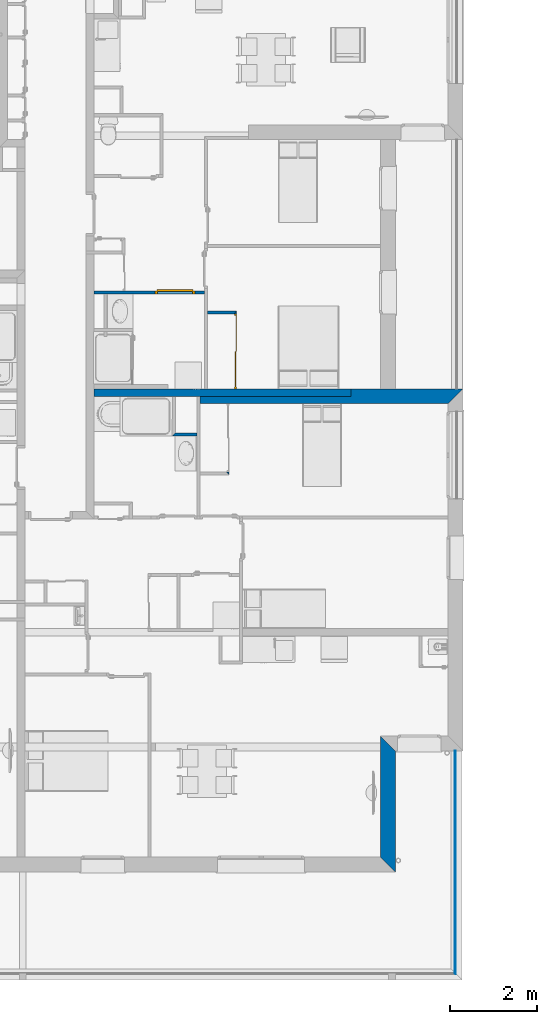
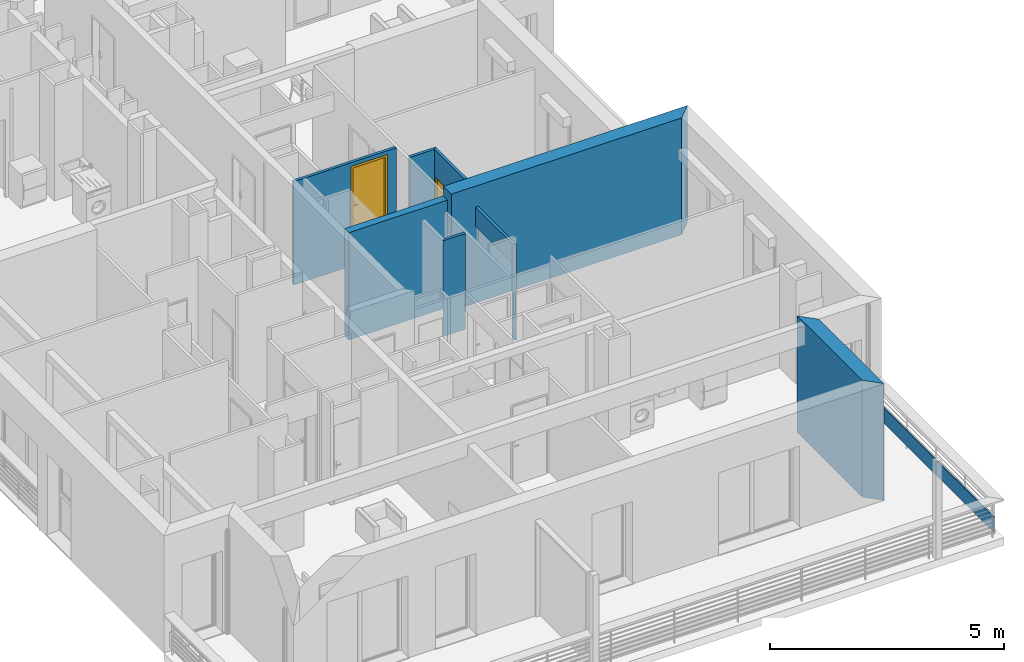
# One storey, part 15 of 165: 9 walls, 2 doors, 3 openings.
"""IFC2X3 building model written with IfcOpenShell, lengths in millimetres."""

import ifcopenshell
import ifcopenshell.guid

model = None  # the IFC model being written
_history = None  # IfcOwnerHistory: only IFC2X3 demands one
_inside = {}  # id of a spatial element -> (the spatial element, [elements in it])
_under = {}  # id of a project, library or spatial element -> (it, [spatial elements below it])
_declared = {}  # id of a project -> (the project, [libraries it declares])
_typed = {}  # id of a type object -> (the type object, [elements of that type])
_made_of = {}  # id of a material, layer set ... -> (it, [elements and type objects made of it])


def new_model(schema):
    """Start an empty IFC model of exactly this schema.

    Asked for "IFC4X3", IfcOpenShell would pick the latest addendum, in which some entities
    have other attributes; the version numbers below select the first issue.
    IFC2X3 requires an IfcOwnerHistory on every rooted entity: one is made here for all.
    """
    global model, _history
    if schema == "IFC4X3":
        model = ifcopenshell.file(schema_version=(4, 3, 0, 0))
    else:
        model = ifcopenshell.file(schema=schema)
    _inside.clear()
    _under.clear()
    _declared.clear()
    _typed.clear()
    _made_of.clear()
    _history = None
    if model.schema == "IFC2X3":
        org = make("IfcOrganization", Name="unknown")
        user = make(
            "IfcPersonAndOrganization",
            ThePerson=make("IfcPerson", FamilyName="unknown"),
            TheOrganization=org,
        )
        app = make(
            "IfcApplication",
            ApplicationDeveloper=org,
            Version="unknown",
            ApplicationFullName="unknown",
            ApplicationIdentifier="unknown",
        )
        _history = make(
            "IfcOwnerHistory",
            OwningUser=user,
            OwningApplication=app,
            ChangeAction="ADDED",
            CreationDate=0,
        )
    return model


def make(cls, **values):
    """One entity of the class cls with the attributes given. An attribute that is None is left unset."""
    return model.create_entity(
        cls, **{name: value for name, value in values.items() if value is not None}
    )


def entity(cls, *values):
    """Any entity or typed value of the class cls, its attributes in the order of the schema. None: left unset."""
    e = model.create_entity(cls)
    for i, value in enumerate(values):
        if value is not None:
            e[i] = value
    return e


def rooted(cls, **values):
    """An entity with a GlobalId (a new one), such as an element, a storey or a relation."""
    return make(cls, GlobalId=ifcopenshell.guid.new(), OwnerHistory=_history, **values)


def si_unit(unit_type, name, prefix=None):
    """IfcSIUnit, for example si_unit("LENGTHUNIT", "METRE", prefix="MILLI")."""
    return make("IfcSIUnit", UnitType=unit_type, Prefix=prefix, Name=name)


def converted_unit(unit_type, name, factor, base, dimensions=None, offset=None):
    """IfcConversionBasedUnit, such as the inch: factor (a typed value) times the base unit."""
    return make(
        "IfcConversionBasedUnit"
        if offset is None
        else "IfcConversionBasedUnitWithOffset",
        ConversionOffset=offset,
        Dimensions=None
        if dimensions is None
        else entity("IfcDimensionalExponents", *dimensions),
        UnitType=unit_type,
        Name=name,
        ConversionFactor=make(
            "IfcMeasureWithUnit", ValueComponent=factor, UnitComponent=base
        ),
    )


def derived_unit(unit_type, elements):
    """IfcDerivedUnit: a product of units, each with its exponent."""
    return make(
        "IfcDerivedUnit",
        Elements=[
            make("IfcDerivedUnitElement", Unit=unit, Exponent=power)
            for unit, power in elements
        ],
        UnitType=unit_type,
    )


def money_unit(currency):
    """IfcMonetaryUnit."""
    return make("IfcMonetaryUnit", Currency=currency)


def assignment(units):
    """IfcUnitAssignment: the units of a project."""
    return None if units is None else make("IfcUnitAssignment", Units=units)


def point(xyz):
    """IfcCartesianPoint."""
    return None if xyz is None else make("IfcCartesianPoint", Coordinates=xyz)


def direction(xyz):
    """IfcDirection."""
    return None if xyz is None else make("IfcDirection", DirectionRatios=xyz)


def frame(location, z_axis=None, x_axis=None):
    """IfcAxis2Placement3D, a coordinate frame: its origin and axes. An axis left out is left unset."""
    return make(
        "IfcAxis2Placement3D",
        Location=point(location),
        Axis=direction(z_axis),
        RefDirection=direction(x_axis),
    )


def frame_2d(location, x_axis=None):
    """IfcAxis2Placement2D, a coordinate frame in the plane: its origin and x axis."""
    return make(
        "IfcAxis2Placement2D", Location=point(location), RefDirection=direction(x_axis)
    )


def origin_with_axes():
    """The frame at (0, 0, 0) with the z axis (0, 0, 1) and the x axis (1, 0, 0) written out."""
    return frame((0.0, 0.0, 0.0), z_axis=(0.0, 0.0, 1.0), x_axis=(1.0, 0.0, 0.0))


def origin_2d_with_axis():
    """The frame at (0, 0) in the plane with the x axis (1, 0) written out."""
    return frame_2d((0.0, 0.0), x_axis=(1.0, 0.0))


def place(relative_to, where):
    """IfcLocalPlacement: puts the frame where relative to a parent placement (None: the world)."""
    return make(
        "IfcLocalPlacement", PlacementRelTo=relative_to, RelativePlacement=where
    )


def context(
    kind, dimensions, precision=None, world=None, true_north=None, identifier=None
):
    """IfcGeometricRepresentationContext, for example the 3D "Model" context."""
    return make(
        "IfcGeometricRepresentationContext",
        ContextIdentifier=identifier,
        ContextType=kind,
        CoordinateSpaceDimension=dimensions,
        Precision=precision,
        WorldCoordinateSystem=world,
        TrueNorth=true_north,
    )


def subcontext(parent, identifier, kind, view, scale=None):
    """IfcGeometricRepresentationSubContext, for example "Body" below "Model"."""
    return make(
        "IfcGeometricRepresentationSubContext",
        ContextIdentifier=identifier,
        ContextType=kind,
        ParentContext=parent,
        TargetScale=scale,
        TargetView=view,
    )


def project(units=None, contexts=None):
    """IfcProject with its units and contexts."""
    return rooted(
        "IfcProject",
        Name="project",
        RepresentationContexts=contexts,
        UnitsInContext=assignment(units),
    )


def spatial(cls, under=None, at=None, **own):
    """A site, building, storey or space (cls), placed at a placement, below another one or the project."""
    s = rooted(cls, ObjectPlacement=at, **own)
    if under is not None:
        _under.setdefault(under.id(), (under, []))[1].append(s)
    return s


def polyline(points):
    """IfcPolyline through the points."""
    return make("IfcPolyline", Points=[point(p) for p in points])


def profile(cls, at=None, kind="AREA", **sizes):
    """A parametric profile (cls). Its sizes go by their IFC names, for example OverallWidth=200.0."""
    return make(cls, ProfileType=kind, Position=at, **sizes)


def rectangle(**sizes):
    """IfcRectangleProfileDef."""
    return profile("IfcRectangleProfileDef", **sizes)


def outline(outer, holes=None, kind="AREA"):
    """IfcArbitraryClosedProfileDef: a profile drawn as a closed curve; with holes, ...WithVoids."""
    if holes is None:
        return make("IfcArbitraryClosedProfileDef", ProfileType=kind, OuterCurve=outer)
    return make(
        "IfcArbitraryProfileDefWithVoids",
        ProfileType=kind,
        OuterCurve=outer,
        InnerCurves=holes,
    )


def extrude(swept, where, along, depth):
    """IfcExtrudedAreaSolid: the profile swept, set in the frame where, extruded along a direction by depth."""
    return make(
        "IfcExtrudedAreaSolid",
        SweptArea=swept,
        Position=where,
        ExtrudedDirection=direction(along),
        Depth=depth,
    )


def faces_of(points, faces, orient=None, outer=None):
    """IfcFace entities. A face is a list of loops; a loop is a list of indices into points, from 0.

    orient and outer hold one flag for each loop. By default every Orientation is true, the
    first loop of a face is its IfcFaceOuterBound and the others are IfcFaceBound.
    """
    made = []
    for i, loops in enumerate(faces):
        bounds = []
        for j, loop in enumerate(loops):
            is_outer = j == 0 if outer is None else outer[i][j]
            bounds.append(
                make(
                    "IfcFaceOuterBound" if is_outer else "IfcFaceBound",
                    Bound=make("IfcPolyLoop", Polygon=[points[k] for k in loop]),
                    Orientation=True if orient is None else orient[i][j],
                )
            )
        made.append(make("IfcFace", Bounds=bounds))
    return made


def open_shell(faces, orient=None, outer=None):
    """The faces of one IfcOpenShell. surface_model builds it on its shared points."""
    return ("IfcOpenShell", faces, orient, outer)


def faceted_brep(points, faces, orient=None, outer=None, voids=None):
    """IfcFacetedBrep: a solid bounded by flat faces; with voids (closed shells), ...WithVoids."""
    shared = [point(p) for p in points]
    hull = make("IfcClosedShell", CfsFaces=faces_of(shared, faces, orient, outer))
    if voids is None:
        return make("IfcFacetedBrep", Outer=hull)
    return make(
        "IfcFacetedBrepWithVoids",
        Outer=hull,
        Voids=[
            make(cls, CfsFaces=faces_of(shared, fs, o, b)) for cls, fs, o, b in voids
        ],
    )


def surface_model(cls, points, shells):
    """IfcFaceBasedSurfaceModel or IfcShellBasedSurfaceModel (cls): surfaces that need not close."""
    shared = [point(p) for p in points]
    made = [make(c, CfsFaces=faces_of(shared, fs, o, b)) for c, fs, o, b in shells]
    if cls == "IfcFaceBasedSurfaceModel":
        return make(cls, FbsmFaces=made)
    return make(cls, SbsmBoundary=made)


def shape(context_of_items, identifier, shape_type, items):
    """IfcShapeRepresentation: the items that make up one representation, for example the "Body"."""
    return make(
        "IfcShapeRepresentation",
        ContextOfItems=context_of_items,
        RepresentationIdentifier=identifier,
        RepresentationType=shape_type,
        Items=items,
    )


def source(mapping_origin, context_of_items, identifier, shape_type, items):
    """IfcRepresentationMap: a shape defined once, which mapped items show again and again."""
    return make(
        "IfcRepresentationMap",
        MappingOrigin=mapping_origin,
        MappedRepresentation=shape(context_of_items, identifier, shape_type, items),
    )


def transform(
    local_origin,
    x_axis=None,
    y_axis=None,
    z_axis=None,
    scale=None,
    scale2=None,
    scale3=None,
    uniform=True,
):
    """IfcCartesianTransformationOperator3D, or its non-uniform kind. x_axis, y_axis, z_axis: its Axis1, 2, 3."""
    if uniform:
        return make(
            "IfcCartesianTransformationOperator3D",
            Axis1=direction(x_axis),
            Axis2=direction(y_axis),
            LocalOrigin=point(local_origin),
            Scale=scale,
            Axis3=direction(z_axis),
        )
    return make(
        "IfcCartesianTransformationOperator3DnonUniform",
        Axis1=direction(x_axis),
        Axis2=direction(y_axis),
        LocalOrigin=point(local_origin),
        Scale=scale,
        Axis3=direction(z_axis),
        Scale2=scale2,
        Scale3=scale3,
    )


def mapped(mapping_source, mapping_target):
    """IfcMappedItem: shows the shape of a source again, moved by a transform."""
    return make(
        "IfcMappedItem", MappingSource=mapping_source, MappingTarget=mapping_target
    )


def material(Name=None, Category=None):
    """IfcMaterial."""
    return make("IfcMaterial", Name=Name, Category=Category)


def layer(
    of_material, thickness, ventilated=None, Name=None, Category=None, Priority=None
):
    """IfcMaterialLayer: one layer of a wall or slab, of a material (None: an air gap)."""
    return make(
        "IfcMaterialLayer",
        Material=of_material,
        LayerThickness=thickness,
        IsVentilated=ventilated,
        Name=Name,
        Category=Category,
        Priority=Priority,
    )


def layer_set(layers, Name=None):
    """IfcMaterialLayerSet."""
    return make("IfcMaterialLayerSet", MaterialLayers=layers, LayerSetName=Name)


def layer_usage(for_layer_set, set_direction, sense, offset, extent=None):
    """IfcMaterialLayerSetUsage: how a layer set lies in its element."""
    return make(
        "IfcMaterialLayerSetUsage",
        ForLayerSet=for_layer_set,
        LayerSetDirection=set_direction,
        DirectionSense=sense,
        OffsetFromReferenceLine=offset,
        ReferenceExtent=extent,
    )


def made_of(thing, what):
    """Note that an element or type object is made of a material, layer set ...; save() writes the relation."""
    if what is not None:
        _made_of.setdefault(what.id(), (what, []))[1].append(thing)
    return thing


def type_object(cls, material=None, **own):
    """A type object (cls), such as IfcWallType, which elements share."""
    return made_of(rooted(cls, **own), material)


def element(
    cls,
    number,
    at=None,
    inside=None,
    cuts=None,
    type_object=None,
    material=None,
    context=None,
    identifier="Body",
    shape_type=None,
    held_by="IfcProductDefinitionShape",
    body=None,
    shapes=None,
    **own,
):
    """One element of the class cls, such as IfcWall. Its Tag is "e" and its number.

    at: its placement. inside: the storey or other place that contains it. cuts: it is an
    opening in that element (IfcRelVoidsElement). A single representation is given by context,
    identifier, shape_type and body (its items); several are given by shapes. held_by: the class
    of the entity that holds the representations. save() writes the other relations.
    """
    e = rooted(cls, Tag="e%d" % number, ObjectPlacement=at, **own)
    if body is not None:
        shapes = [shape(context, identifier, shape_type, body)]
    if shapes is not None:
        e.Representation = make(held_by, Representations=shapes)
    if inside is not None:
        _inside.setdefault(inside.id(), (inside, []))[1].append(e)
    if cuts is not None:
        rooted(
            "IfcRelVoidsElement", RelatingBuildingElement=cuts, RelatedOpeningElement=e
        )
    if type_object is not None:
        _typed.setdefault(type_object.id(), (type_object, []))[1].append(e)
    return made_of(e, material)


def fill(opening, filler):
    """IfcRelFillsElement: the door or window that sits in an opening."""
    return rooted(
        "IfcRelFillsElement",
        RelatingOpeningElement=opening,
        RelatedBuildingElement=filler,
    )


def aggregate(whole, parts):
    """IfcRelAggregates: a whole, such as a stair, and the parts it consists of."""
    return rooted("IfcRelAggregates", RelatingObject=whole, RelatedObjects=parts)


def save(model, path):
    """Write the relations noted so far, then the file.

    IfcRelAggregates (storeys below a building ...), IfcRelContainedInSpatialStructure (elements
    in a storey), IfcRelDefinesByType, IfcRelAssociatesMaterial and IfcRelDeclares: one each for
    every whole, place, type object, material and project.
    """
    for whole, parts in _under.values():
        aggregate(whole, parts)
    for where, things in _inside.values():
        rooted(
            "IfcRelContainedInSpatialStructure",
            RelatedElements=things,
            RelatingStructure=where,
        )
    for kind, things in _typed.values():
        rooted("IfcRelDefinesByType", RelatedObjects=things, RelatingType=kind)
    for what, things in _made_of.values():
        rooted("IfcRelAssociatesMaterial", RelatedObjects=things, RelatingMaterial=what)
    for by, libraries in _declared.values():
        rooted("IfcRelDeclares", RelatingContext=by, RelatedDefinitions=libraries)
    model.write(path)


model = new_model("IFC2X3")

# Units and contexts
model_context = context("Model", 3, precision=0.01, world=origin_with_axes(), true_north=direction((0.0, 1.0)))
body_context = subcontext(model_context, "Body", "Model", "MODEL_VIEW")
ifc_project = project(units=[si_unit("LENGTHUNIT", "METRE", prefix="MILLI"), si_unit("AREAUNIT", "SQUARE_METRE"), si_unit("VOLUMEUNIT", "CUBIC_METRE"), converted_unit("PLANEANGLEUNIT", "DEGREE", entity("IfcPlaneAngleMeasure", 0.0174532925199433), si_unit("PLANEANGLEUNIT", "RADIAN"), dimensions=[0, 0, 0, 0, 0, 0, 0]), money_unit("USD"), converted_unit("TIMEUNIT", "Year", entity("IfcTimeMeasure", 31557600.0), si_unit("TIMEUNIT", "SECOND"), dimensions=[0, 0, 1, 0, 0, 0, 0]), si_unit("MASSUNIT", "GRAM", prefix="KILO"), si_unit("THERMODYNAMICTEMPERATUREUNIT", "DEGREE_CELSIUS"), si_unit("LUMINOUSINTENSITYUNIT", "LUMEN"), si_unit("ENERGYUNIT", "JOULE", prefix="MEGA"), derived_unit("THERMALCONDUCTANCEUNIT", [(si_unit("POWERUNIT", "WATT"), 1), (si_unit("LENGTHUNIT", "METRE"), -1), (si_unit("THERMODYNAMICTEMPERATUREUNIT", "KELVIN"), -1)]), derived_unit("SPECIFICHEATCAPACITYUNIT", [(si_unit("ENERGYUNIT", "JOULE"), 1), (si_unit("MASSUNIT", "GRAM", prefix="KILO"), -1), (si_unit("THERMODYNAMICTEMPERATUREUNIT", "KELVIN"), -1)]), derived_unit("MASSDENSITYUNIT", [(si_unit("MASSUNIT", "GRAM", prefix="KILO"), 1), (si_unit("VOLUMEUNIT", "CUBIC_METRE"), -1)])], contexts=[model_context])

# Site, building, storey
site_placement = place(None, origin_with_axes())
site = spatial("IfcSite", under=ifc_project, at=site_placement, Name="Site", CompositionType="ELEMENT")
building_placement = place(site_placement, origin_with_axes())
building = spatial("IfcBuilding", under=site, at=building_placement, Name="Bâtiment", CompositionType="ELEMENT")
storey_placement = place(building_placement, frame((0.0, 0.0, 8500.0), z_axis=(0.0, 0.0, 1.0), x_axis=(1.0, 0.0, 0.0)))
storey = spatial("IfcBuildingStorey", under=building, at=storey_placement, Name="Etage 2", CompositionType="ELEMENT", Elevation=8500.0)

# Wall
ifc_material_1 = material(Name="Parpaing 314940890")
ifc_layer_1 = layer(ifc_material_1, 180.0, ventilated="UNKNOWN")
ifc_layer_set_1 = layer_set([ifc_layer_1], Name="Beton  18 0018356637")
ifc_layer_usage_1 = layer_usage(ifc_layer_set_1, "AXIS2", "NEGATIVE", 0.0)
wall_type_1 = type_object("IfcWallType", Name="Beton  18 0018356637 180", PredefinedType="NOTDEFINED")
wall_1_placement = place(storey_placement, frame((2225712.31835196, -646738.4413036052, 0.0), z_axis=(0.0, 0.0, 1.0), x_axis=(1.0, -3.183654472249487e-10, 0.0)))
element("IfcWallStandardCase", 1, at=wall_1_placement, inside=storey, type_object=wall_type_1, material=ifc_layer_usage_1, Name="Mur-142", context=body_context, shape_type="SweptSolid", body=[
    extrude(outline(polyline([(180.0000048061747, -180.000000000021), (6081.914995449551, -180.0000000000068), (6081.914995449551, 0.0), (180.0000047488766, 0.0), (180.0000048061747, -180.000000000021)])), origin_with_axes(), (0.0, 0.0, 1.0), 2800.0),
])

# Wall, opening, door
ifc_material_2 = material(Name="Hachure solide 268963992")
ifc_layer_2 = layer(ifc_material_2, 70.0, ventilated="UNKNOWN")
ifc_layer_set_2 = layer_set([ifc_layer_2], Name="Cloison 70 0826278243")
ifc_layer_usage_2 = layer_usage(ifc_layer_set_2, "AXIS2", "POSITIVE", -70.0)
wall_type_2 = type_object("IfcWallType", Name="Cloison 70 0826278243 70", PredefinedType="NOTDEFINED")
wall_2_placement = place(storey_placement, frame((2225712.318356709, -644489.3213492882, 0.0), z_axis=(0.0, 0.0, 1.0), x_axis=(1.0, 0.0, 0.0)))
wall_2 = element("IfcWallStandardCase", 2, at=wall_2_placement, inside=storey, type_object=wall_type_2, material=ifc_layer_usage_2, Name="Mur-149", context=body_context, shape_type="SweptSolid", body=[
    extrude(outline(polyline([(179.99999999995, -69.99999999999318), (2718.332030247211, -69.99999999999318), (2718.332030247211, 0.0), (179.99999999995, 0.0), (179.99999999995, -69.99999999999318)])), origin_with_axes(), (0.0, 0.0, 1.0), 2700.0),
])
opening_1_placement = place(wall_2_placement, frame((2043.955804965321, 0.0, 520.0000000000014), z_axis=(0.0, 0.0, 1.0), x_axis=(1.0, 0.0, 0.0)))
opening_1 = element("IfcOpeningElement", 3, at=opening_1_placement, cuts=wall_2, Name="Por-278", context=body_context, shape_type="SweptSolid", body=[
    extrude(rectangle(XDim=910.0, YDim=2080.0, at=origin_2d_with_axis()), frame((0.0, -69.99999999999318, 1040.000000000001), z_axis=(0.0, 1.0, 0.0), x_axis=(1.0, 0.0, 0.0)), (0.0, 0.0, 1.0), 140.0),
])
door_style_1 = type_object("IfcDoorStyle", Name="Porte_1v", ConstructionType="NOTDEFINED", OperationType="NOTDEFINED", ParameterTakesPrecedence=False, Sizeable=False)
shared_shape_1 = source(origin_with_axes(), body_context, "Body", "Brep", [
    faceted_brep([(454.9999999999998, 0.0, 0.0), (414.9999999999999, 0.0, 0.0), (414.9999999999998, 0.0, 2040.0), (-414.9999999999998, 0.0, 2040.0), (-414.9999999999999, 0.0, 0.0), (-454.9999999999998, 0.0, 0.0), (-454.9999999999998, 0.0, 2080.0), (454.9999999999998, 0.0, 2080.0), (454.9999999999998, -69.99999999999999, 0.0), (399.9999999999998, -69.99999999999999, 0.0), (399.9999999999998, -15.0, 0.0), (414.9999999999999, -15.0, 0.0), (414.9999999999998, -15.0, 2040.0), (-414.9999999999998, -15.0, 2040.0), (-414.9999999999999, -15.0, 0.0), (-399.9999999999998, -15.0, 0.0), (-399.9999999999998, -69.99999999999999, 0.0), (-454.9999999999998, -69.99999999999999, 0.0), (-454.9999999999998, -69.99999999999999, 2080.0), (454.9999999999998, -69.99999999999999, 2080.0), (-399.9999999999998, -69.99999999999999, 2025.0), (399.9999999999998, -69.99999999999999, 2025.0), (399.9999999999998, -15.0, 2025.0), (-399.9999999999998, -15.0, 2025.0)], [[[0, 1, 2, 3, 4, 5, 6, 7]], [[0, 8, 9, 10, 11, 1]], [[1, 11, 12, 2]], [[2, 12, 13, 3]], [[3, 13, 14, 4]], [[5, 4, 14, 15, 16, 17]], [[18, 6, 5, 17]], [[19, 7, 6, 18]], [[8, 0, 7, 19]], [[9, 8, 19, 18, 17, 16, 20, 21]], [[10, 9, 21, 22]], [[11, 10, 22, 23, 15, 14, 13, 12]], [[23, 20, 16, 15]], [[22, 21, 20, 23]]]),
    faceted_brep([(-349.9999999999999, -15.0, 900.0), (-389.9999999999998, -15.0, 900.0), (-389.9999999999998, -15.0, 1100.0), (-349.9999999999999, -15.0, 1100.0), (-349.9999999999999, -24.99999999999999, 900.0), (-389.9999999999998, -24.99999999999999, 900.0), (-389.9999999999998, -24.99999999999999, 1100.0), (-349.9999999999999, -24.99999999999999, 1100.0)], [[[0, 1, 2, 3]], [[1, 0, 4, 5]], [[2, 1, 5, 6]], [[3, 2, 6, 7]], [[0, 3, 7, 4]], [[5, 4, 7, 6]]]),
    faceted_brep([(-279.9999999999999, -24.99999999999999, 1000.0), (-379.9999999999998, -24.99999999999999, 1000.0), (-379.9999999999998, -24.99999999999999, 1020.0), (-279.9999999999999, -24.99999999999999, 1020.0), (-279.9999999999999, -44.99999999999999, 1000.0), (-379.9999999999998, -44.99999999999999, 1000.0), (-379.9999999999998, -44.99999999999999, 1020.0), (-279.9999999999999, -44.99999999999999, 1020.0)], [[[0, 1, 2, 3]], [[1, 0, 4, 5]], [[2, 1, 5, 6]], [[3, 2, 6, 7]], [[0, 3, 7, 4]], [[5, 4, 7, 6]]]),
    faceted_brep([(-349.9999999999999, 34.99999999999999, 900.0), (-389.9999999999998, 34.99999999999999, 900.0), (-389.9999999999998, 34.99999999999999, 1100.0), (-349.9999999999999, 34.99999999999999, 1100.0), (-349.9999999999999, 24.99999999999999, 900.0), (-389.9999999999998, 24.99999999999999, 900.0), (-389.9999999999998, 24.99999999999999, 1100.0), (-349.9999999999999, 24.99999999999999, 1100.0)], [[[0, 1, 2, 3]], [[1, 0, 4, 5]], [[2, 1, 5, 6]], [[3, 2, 6, 7]], [[0, 3, 7, 4]], [[5, 4, 7, 6]]]),
    faceted_brep([(-279.9999999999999, 54.99999999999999, 1000.0), (-379.9999999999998, 54.99999999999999, 1000.0), (-379.9999999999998, 54.99999999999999, 1020.0), (-279.9999999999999, 54.99999999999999, 1020.0), (-279.9999999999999, 34.99999999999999, 1000.0), (-379.9999999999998, 34.99999999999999, 1000.0), (-379.9999999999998, 34.99999999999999, 1020.0), (-279.9999999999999, 34.99999999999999, 1020.0)], [[[0, 1, 2, 3]], [[1, 0, 4, 5]], [[2, 1, 5, 6]], [[3, 2, 6, 7]], [[0, 3, 7, 4]], [[5, 4, 7, 6]]]),
    faceted_brep([(-414.9999999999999, 24.99999999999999, 0.0), (414.9999999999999, 24.99999999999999, 0.0), (414.9999999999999, -15.0, 0.0), (-414.9999999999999, -15.0, 0.0), (-414.9999999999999, 24.99999999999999, 2040.0), (414.9999999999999, 24.99999999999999, 2040.0), (414.9999999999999, -15.0, 2040.0), (-414.9999999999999, -15.0, 2040.0)], [[[0, 1, 2, 3]], [[0, 4, 5, 1]], [[1, 5, 6, 2]], [[3, 2, 6, 7]], [[4, 0, 3, 7]], [[5, 4, 7, 6]]]),
])
door_1_placement = place(opening_1_placement, frame((-414.9999999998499, 0.0, 0.0), z_axis=(0.0, 0.0, 1.0), x_axis=(1.0, 0.0, 0.0)))
door_1 = element("IfcDoor", 4, at=door_1_placement, inside=storey, type_object=door_style_1, Name="Por-278", OverallHeight=2040.0, OverallWidth=830.0, context=body_context, shape_type="MappedRepresentation", body=[
    mapped(shared_shape_1, transform((414.9999999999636, 0.0, 0.0))),
])
fill(opening_1, door_1)

# Walls
ifc_layer_usage_3 = layer_usage(ifc_layer_set_2, "AXIS2", "NEGATIVE", 70.0)
wall_3_placement = place(storey_placement, frame((2229170.650386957, -644948.2790322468, 0.0), z_axis=(0.0, 0.0, 1.0), x_axis=(-1.0, 0.0, 0.0)))
element("IfcWallStandardCase", 5, at=wall_3_placement, inside=storey, type_object=wall_type_2, material=ifc_layer_usage_3, Name="Mur-149", context=body_context, shape_type="SweptSolid", body=[
    extrude(outline(polyline([(0.0, 0.0), (669.9999999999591, 0.0), (669.9999999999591, 69.99999999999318), (70.00000000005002, 69.99999999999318), (0.0, 0.0)])), origin_with_axes(), (0.0, 0.0, 1.0), 2700.0),
])
ifc_layer_usage_4 = layer_usage(ifc_layer_set_2, "AXIS2", "NEGATIVE", 70.0)
wall_4_placement = place(storey_placement, frame((2227690.593348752, -647819.314047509, 0.0), z_axis=(0.0, 0.0, 1.0), x_axis=(1.0, -9.519431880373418e-10, 0.0)))
element("IfcWallStandardCase", 6, at=wall_4_placement, inside=storey, type_object=wall_type_2, material=ifc_layer_usage_4, Name="Mur-149", context=body_context, shape_type="SweptSolid", body=[
    extrude(outline(polyline([(-1.13686837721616e-10, 0.0), (566.2871945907, 0.0), (566.2871945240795, 69.99999999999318), (70.16144670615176, 69.99999999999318), (-1.13686837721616e-10, 0.0)])), origin_with_axes(), (0.0, 0.0, 1.0), 2500.0),
])

# Wall, opening, door
ifc_layer_usage_5 = layer_usage(ifc_layer_set_2, "AXIS2", "NEGATIVE", 70.0)
wall_5_placement = place(storey_placement, frame((2229170.650386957, -646738.4413044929, 0.0), z_axis=(0.0, 0.0, 1.0), x_axis=(0.0, 1.0, 0.0)))
wall_5 = element("IfcWallStandardCase", 7, at=wall_5_placement, inside=storey, type_object=wall_type_2, material=ifc_layer_usage_5, Name="Mur-149", context=body_context, shape_type="SweptSolid", body=[
    extrude(outline(polyline([(-2.133049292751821e-07, 0.0), (1790.16227224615, 0.0), (1720.162272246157, 70.00000000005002), (-1.910223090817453e-07, 70.00000000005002), (-2.133049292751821e-07, 0.0)])), origin_with_axes(), (0.0, 0.0, 1.0), 2700.0),
])
opening_2_placement = place(wall_5_placement, frame((860.0811365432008, 0.0, 0.0), z_axis=(0.0, 0.0, 1.0), x_axis=(1.0, 0.0, 0.0)))
opening_2 = element("IfcOpeningElement", 8, at=opening_2_placement, cuts=wall_5, Name="Por-323", context=body_context, shape_type="SweptSolid", body=[
    extrude(rectangle(XDim=1720.162271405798, YDim=2000.0, at=origin_2d_with_axis()), frame((0.0, 0.0, 1000.0), z_axis=(0.0, 1.0, 0.0), x_axis=(1.0, 0.0, 0.0)), (0.0, 0.0, -1.0), 70.0),
    extrude(rectangle(XDim=1720.162271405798, YDim=2000.0, at=origin_2d_with_axis()), frame((0.0, 0.0, 1000.0), z_axis=(0.0, -1.0, 0.0), x_axis=(1.0, 0.0, 0.0)), (0.0, 0.0, -1.0), 70.0),
])
door_style_2 = type_object("IfcDoorStyle", ConstructionType="NOTDEFINED", OperationType="NOTDEFINED", ParameterTakesPrecedence=False, Sizeable=False)
shared_shape_2 = source(origin_with_axes(), body_context, "Body", "SurfaceModel", [
    faceted_brep([(-860.0811357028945, 0.0, 0.0), (-860.0811357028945, 0.0, 2000.0), (860.0811357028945, 0.0, 2000.0), (860.0811357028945, 0.0, 0.0), (820.0811357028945, 0.0, 0.0), (820.0811357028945, 0.0, 1960.0), (-820.0811357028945, 0.0, 1960.0), (-820.0811357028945, 0.0, 0.0), (-860.0811357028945, -50.0, 0.0), (-860.0811357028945, -50.0, 2000.0), (860.0811357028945, -50.0, 2000.0), (860.0811357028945, -50.0, 0.0), (820.0811357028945, -50.0, 0.0), (820.0811357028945, -10.0, 0.0), (820.0811357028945, -10.0, 1960.0), (-820.0811357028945, -10.0, 1960.0), (-820.0811357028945, -10.0, 0.0), (-820.0811357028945, -50.0, 0.0), (-820.0811357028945, -50.0, 1960.0), (820.0811357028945, -50.0, 1960.0)], [[[0, 1, 2, 3, 4, 5, 6, 7]], [[8, 9, 1, 0]], [[9, 10, 2, 1]], [[10, 11, 3, 2]], [[3, 11, 12, 13, 4]], [[5, 4, 13, 14]], [[6, 5, 14, 15]], [[7, 6, 15, 16]], [[0, 7, 16, 17, 8]], [[17, 18, 19, 12, 11, 10, 9, 8]], [[14, 13, 12, 19]], [[15, 14, 19, 18]], [[16, 15, 18, 17]]]),
    faceted_brep([(820.0811357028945, -20.0, 0.0), (820.0811357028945, -40.0, 0.0), (0.0, -40.0, 0.0), (0.0, -20.0, 0.0), (820.0811357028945, -20.0, 1960.0), (820.0811357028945, -40.0, 1960.0), (0.0, -40.0, 1960.0), (800.0811357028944, -40.0, 20.0), (20.00000000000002, -40.0, 20.0), (20.00000000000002, -40.0, 1940.0), (800.0811357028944, -40.0, 1940.0), (0.0, -20.0, 1960.0), (800.0811357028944, -20.0, 20.0), (800.0811357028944, -20.0, 1940.0), (20.00000000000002, -20.0, 1940.0), (20.00000000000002, -20.0, 20.0)], [[[0, 1, 2, 3]], [[4, 5, 1, 0]], [[1, 5, 6, 2], [7, 8, 9, 10]], [[3, 2, 6, 11]], [[0, 3, 11, 4], [12, 13, 14, 15]], [[11, 6, 5, 4]], [[15, 8, 7, 12]], [[14, 9, 8, 15]], [[13, 10, 9, 14]], [[12, 7, 10, 13]]]),
    surface_model("IfcShellBasedSurfaceModel", [(800.0811357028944, -30.0, 20.0), (800.0811357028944, -30.0, 1940.0), (20.00000000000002, -30.0, 1940.0), (20.00000000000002, -30.0, 20.0)], [open_shell([[[0, 1, 2, 3]]])]),
    faceted_brep([(5.000000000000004, 0.0, 0.0), (5.000000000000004, -20.0, 0.0), (-820.0811357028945, -20.0, 0.0), (-820.0811357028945, 0.0, 0.0), (5.000000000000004, 0.0, 1960.0), (5.000000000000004, -20.0, 1960.0), (-820.0811357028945, -20.0, 1960.0), (-820.0811357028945, 0.0, 1960.0)], [[[0, 1, 2, 3]], [[4, 5, 1, 0]], [[1, 5, 6, 2]], [[3, 2, 6, 7]], [[0, 3, 7, 4]], [[7, 6, 5, 4]]]),
])
door_2_placement = place(opening_2_placement, frame((860.0811357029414, 0.0, 0.0), z_axis=(0.0, 0.0, 1.0), x_axis=(-1.0, 0.0, 0.0)))
door_2 = element("IfcDoor", 9, at=door_2_placement, inside=storey, type_object=door_style_2, Name="Por-323", OverallHeight=2000.0, OverallWidth=1720.16, context=body_context, shape_type="MappedRepresentation", body=[
    mapped(shared_shape_2, transform((860.0811357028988, 0.0, 0.0))),
])
fill(opening_2, door_2)

# Wall, opening
ifc_layer_usage_6 = layer_usage(ifc_layer_set_2, "AXIS2", "POSITIVE", -70.0)
wall_6_placement = place(storey_placement, frame((2228996.880543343, -646738.4413036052, 0.0), z_axis=(0.0, 0.0, 1.0), x_axis=(0.0, -1.0, 0.0)))
wall_6 = element("IfcWallStandardCase", 10, at=wall_6_placement, inside=storey, type_object=wall_type_2, material=ifc_layer_usage_6, Name="Mur-149", context=body_context, shape_type="SweptSolid", body=[
    extrude(outline(polyline([(340.0000024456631, -70.00000000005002), (1908.540762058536, -70.00000000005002), (1978.599932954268, 0.0), (340.0000024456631, 0.0), (340.0000024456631, -70.00000000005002)])), origin_with_axes(), (0.0, 0.0, 1.0), 2500.0),
])
opening_3_placement = place(wall_6_placement, frame((1124.270382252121, 1.13686837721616e-10, 0.0), z_axis=(0.0, 0.0, 1.0), x_axis=(1.0, 0.0, 0.0)))
element("IfcOpeningElement", 11, at=opening_3_placement, cuts=wall_6, Name="Por-321", context=body_context, shape_type="SweptSolid", body=[
    extrude(rectangle(XDim=1568.540759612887, YDim=2000.0, at=origin_2d_with_axis()), frame((0.0, 0.0, 1000.0), z_axis=(0.0, -1.0, 0.0), x_axis=(1.0, 0.0, 0.0)), (0.0, 0.0, -1.0), 70.0),
    extrude(rectangle(XDim=1568.540759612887, YDim=2000.0, at=origin_2d_with_axis()), frame((0.0, 0.0, 1000.0), z_axis=(0.0, 1.0, 0.0), x_axis=(1.0, 0.0, 0.0)), (0.0, 0.0, -1.0), 70.0),
])

# Walls
ifc_material_3 = material(Name="MANQUANT")
ifc_layer_3 = layer(ifc_material_3, 20.0, ventilated="UNKNOWN")
ifc_layer_set_3 = layer_set([ifc_layer_3], Name="MANQUANT 20")
ifc_layer_usage_7 = layer_usage(ifc_layer_set_3, "AXIS2", "NEGATIVE", 20.0)
wall_type_3 = type_object("IfcWallType", Name="MANQUANT 20", PredefinedType="NOTDEFINED")
wall_7_placement = place(storey_placement, frame((2234194.73762675, -660162.0180163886, 99.99999999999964), z_axis=(0.0, 0.0, 1.0), x_axis=(0.0, 1.0, 0.0)))
element("IfcWallStandardCase", 12, at=wall_7_placement, inside=storey, type_object=wall_type_3, material=ifc_layer_usage_7, Name="Mur-181", context=body_context, shape_type="SweptSolid", body=[
    extrude(outline(polyline([(0.0, 0.0), (5120.550238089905, 0.0), (5120.550238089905, 19.99999999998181), (19.99999999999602, 19.99999999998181), (0.0, 0.0)])), origin_with_axes(), (0.0, 0.0, 1.0), 400.0),
])
ifc_material_4 = material(Name="Parpaing 312445824")
ifc_layer_4 = layer(ifc_material_4, 180.0, ventilated="UNKNOWN")
ifc_material_5 = material(Name="Isolant styromousse 301821074")
ifc_layer_5 = layer(ifc_material_5, 160.0, ventilated="UNKNOWN")
ifc_layer_set_4 = layer_set([ifc_layer_4, ifc_layer_5], Name="isol int 18+16 0018356637")
ifc_layer_usage_8 = layer_usage(ifc_layer_set_4, "AXIS2", "POSITIVE", 0.0)
wall_type_4 = type_object("IfcWallType", Name="isol int 18+16 0018356637 340", PredefinedType="NOTDEFINED")
wall_8_placement = place(storey_placement, frame((2232806.658098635, -657818.3230769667, 0.0), z_axis=(0.0, 0.0, 1.0), x_axis=(0.0, 1.0, 0.0)))
element("IfcWallStandardCase", 13, at=wall_8_placement, inside=storey, type_object=wall_type_4, material=ifc_layer_usage_8, Name="Mur-144", context=body_context, shape_type="SweptSolid", body=[
    extrude(outline(polyline([(0.0, 0.0), (2776.855298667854, 0.0), (3116.855298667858, 340.0000000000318), (340.0000000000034, 340.0000000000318), (0.0, 0.0)])), origin_with_axes(), (0.0, 0.0, 1.0), 3050.0),
])
ifc_layer_usage_9 = layer_usage(ifc_layer_set_4, "AXIS2", "NEGATIVE", 0.0)
wall_9_placement = place(storey_placement, frame((2228326.880543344, -646738.4413060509, 0.0), z_axis=(0.0, 0.0, 1.0), x_axis=(1.0, 0.0, 0.0)))
element("IfcWallStandardCase", 14, at=wall_9_placement, inside=storey, type_object=wall_type_4, material=ifc_layer_usage_9, Name="Mur-144", context=body_context, shape_type="SweptSolid", body=[
    extrude(outline(polyline([(0.0, -340.0000000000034), (5689.790753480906, -340.0000000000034), (6029.790753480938, 0.0), (0.0, 0.0), (0.0, -340.0000000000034)])), origin_with_axes(), (0.0, 0.0, 1.0), 3050.0),
])

save(model, "model.ifc")
